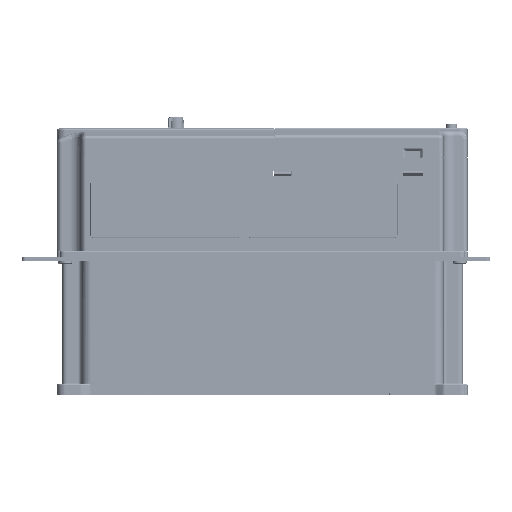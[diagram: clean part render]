
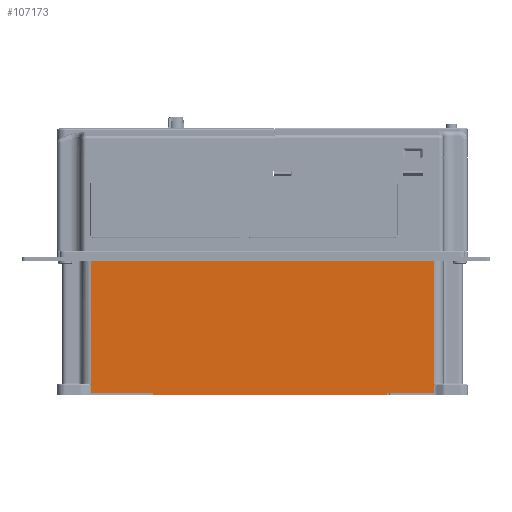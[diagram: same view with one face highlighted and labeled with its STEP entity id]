
A CAD part, left-side view. The second image highlights one B-rep face of the part: STEP entity #107173.
In plain terms, the highlighted planar face has unit normal (-1, 0, 0) as drawn and (1, 0, 0) by its records, which use the part's own axes.
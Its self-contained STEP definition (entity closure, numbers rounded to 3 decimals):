
#77103=DIRECTION('',(0.,0.,-1.));
#77104=VECTOR('',#77103,146.);
#77105=CARTESIAN_POINT('',(70.,-80.,68.));
#77106=LINE('',#77105,#77104);
#78350=CARTESIAN_POINT('',(70.,-73.,108.657));
#78352=DIRECTION('',(-0.001,0.,-1.));
#78353=VECTOR('',#78352,1.493);
#78354=CARTESIAN_POINT('',(70.,-73.,108.657));
#78355=LINE('',#78354,#78353);
#78363=DIRECTION('',(-0.001,0.,1.));
#78364=VECTOR('',#78363,1.493);
#78365=CARTESIAN_POINT('',(70.,-73.,-108.657));
#78366=LINE('',#78365,#78364);
#83448=DIRECTION('',(0.,0.,-1.));
#83449=VECTOR('',#83448,39.169);
#83450=CARTESIAN_POINT('',(70.,-78.5,107.169));
#83451=LINE('',#83450,#83449);
#83452=DIRECTION('',(0.,1.,0.));
#83453=VECTOR('',#83452,5.);
#83454=CARTESIAN_POINT('',(70.,-78.5,107.169));
#83455=LINE('',#83454,#83453);
#83456=CARTESIAN_POINT('',(70.,-73.405,
107.403));
#83457=CARTESIAN_POINT('',(70.,-73.373,
107.481));
#83458=CARTESIAN_POINT('',(70.,-73.298,
107.663));
#83459=CARTESIAN_POINT('',(70.,-73.201,
107.913));
#83460=CARTESIAN_POINT('',(70.,-73.116,
108.162));
#83461=CARTESIAN_POINT('',(70.,-73.046,
108.408));
#83462=CARTESIAN_POINT('',(70.,-73.013,108.574));
#83463=CARTESIAN_POINT('',(70.,-73.,108.657));
#83465=DIRECTION('',(0.,-1.,0.));
#83466=VECTOR('',#83465,79.);
#83467=CARTESIAN_POINT('',(70.,6.,107.));
#83468=LINE('',#83467,#83466);
#83469=DIRECTION('',(0.,0.,-1.));
#83470=VECTOR('',#83469,214.);
#83471=CARTESIAN_POINT('',(70.,6.,107.));
#83472=LINE('',#83471,#83470);
#83473=DIRECTION('',(0.,1.,0.));
#83474=VECTOR('',#83473,79.);
#83475=CARTESIAN_POINT('',(70.,-73.,-107.));
#83476=LINE('',#83475,#83474);
#83477=CARTESIAN_POINT('',(70.,-73.408,
-107.395));
#83478=CARTESIAN_POINT('',(70.,-73.366,
-107.478));
#83479=CARTESIAN_POINT('',(70.,-73.303,
-107.663));
#83480=CARTESIAN_POINT('',(70.,-73.183,
-107.953));
#83481=CARTESIAN_POINT('',(70.,-73.078,
-108.281));
#83482=CARTESIAN_POINT('',(70.,-73.02,-108.527));
#83483=CARTESIAN_POINT('',(70.,-73.,-108.657));
#83485=DIRECTION('',(0.,-1.,0.));
#83486=VECTOR('',#83485,5.);
#83487=CARTESIAN_POINT('',(70.,-73.5,-107.169));
#83488=LINE('',#83487,#83486);
#83489=DIRECTION('',(0.,0.,-1.));
#83490=VECTOR('',#83489,29.169);
#83491=CARTESIAN_POINT('',(70.,-78.5,-78.));
#83492=LINE('',#83491,#83490);
#83493=DIRECTION('',(0.,1.,0.));
#83494=VECTOR('',#83493,1.5);
#83495=CARTESIAN_POINT('',(70.,-80.,-78.));
#83496=LINE('',#83495,#83494);
#83497=DIRECTION('',(0.,1.,0.));
#83498=VECTOR('',#83497,1.5);
#83499=CARTESIAN_POINT('',(70.,-80.,68.));
#83500=LINE('',#83499,#83498);
#92670=CARTESIAN_POINT('',(70.,-73.,107.));
#92671=CARTESIAN_POINT('',(70.,-73.,107.028));
#92672=CARTESIAN_POINT('',(70.001,-73.,107.087));
#92673=CARTESIAN_POINT('',(69.999,-73.,107.136));
#92674=CARTESIAN_POINT('',(69.999,-73.,107.164));
#92707=CARTESIAN_POINT('',(70.,-73.405,
107.403));
#92719=CARTESIAN_POINT('',(70.,-73.405,
107.403));
#92720=CARTESIAN_POINT('',(70.,-73.422,
107.36));
#92721=CARTESIAN_POINT('',(70.,-73.447,
107.298));
#92722=CARTESIAN_POINT('',(70.,-73.484,107.209));
#92723=CARTESIAN_POINT('',(70.,-73.5,107.169));
#92819=CARTESIAN_POINT('',(69.999,-73.,-107.164));
#92820=CARTESIAN_POINT('',(69.999,-73.,-107.136));
#92821=CARTESIAN_POINT('',(70.001,-73.,-107.087));
#92822=CARTESIAN_POINT('',(70.,-73.,-107.028));
#92823=CARTESIAN_POINT('',(70.,-73.,-107.));
#93031=CARTESIAN_POINT('',(70.,-73.408,
-107.395));
#93038=CARTESIAN_POINT('',(70.,-73.5,-107.169));
#93039=CARTESIAN_POINT('',(70.,-73.484,-107.207));
#93040=CARTESIAN_POINT('',(70.,-73.453,
-107.283));
#93041=CARTESIAN_POINT('',(70.,-73.423,
-107.358));
#93042=CARTESIAN_POINT('',(70.,-73.408,
-107.395));
#95496=CARTESIAN_POINT('',(70.,-80.,68.));
#95498=VERTEX_POINT('',#95496);
#95512=CARTESIAN_POINT('',(70.,-80.,-78.));
#95514=VERTEX_POINT('',#95512);
#95523=CARTESIAN_POINT('',(70.,-78.5,107.169));
#95524=CARTESIAN_POINT('',(70.,-78.5,68.));
#95525=VERTEX_POINT('',#95523);
#95526=VERTEX_POINT('',#95524);
#95527=CARTESIAN_POINT('',(70.,-78.5,-78.));
#95528=CARTESIAN_POINT('',(70.,-78.5,-107.169));
#95529=VERTEX_POINT('',#95527);
#95530=VERTEX_POINT('',#95528);
#95935=CARTESIAN_POINT('',(70.,6.,107.));
#95936=CARTESIAN_POINT('',(70.,-73.,107.));
#95937=VERTEX_POINT('',#95935);
#95938=VERTEX_POINT('',#95936);
#95939=CARTESIAN_POINT('',(70.,-73.,-107.));
#95940=CARTESIAN_POINT('',(70.,6.,-107.));
#95941=VERTEX_POINT('',#95939);
#95942=VERTEX_POINT('',#95940);
#96020=CARTESIAN_POINT('',(70.,-73.5,-107.169));
#96022=VERTEX_POINT('',#96020);
#96145=CARTESIAN_POINT('',(70.,-73.5,107.169));
#96146=VERTEX_POINT('',#96145);
#96149=VERTEX_POINT('',#92674);
#96150=VERTEX_POINT('',#92819);
#96217=VERTEX_POINT('',#78350);
#96218=VERTEX_POINT('',#92707);
#96220=VERTEX_POINT('',#93031);
#96221=VERTEX_POINT('',#83483);
#107138=CARTESIAN_POINT('',(70.,-80.,125.));
#107139=DIRECTION('',(1.,0.,0.));
#107140=DIRECTION('',(0.,0.,-1.));
#107141=AXIS2_PLACEMENT_3D('',#107138,#107139,#107140);
#107142=PLANE('',#107141);
#107143=ORIENTED_EDGE('',*,*,#99883,.F.);
#107145=ORIENTED_EDGE('',*,*,#107144,.T.);
#107147=ORIENTED_EDGE('',*,*,#107146,.F.);
#107149=ORIENTED_EDGE('',*,*,#107148,.T.);
#107150=ORIENTED_EDGE('',*,*,#101305,.T.);
#107152=ORIENTED_EDGE('',*,*,#107151,.F.);
#107154=ORIENTED_EDGE('',*,*,#107153,.F.);
#107155=ORIENTED_EDGE('',*,*,#101616,.T.);
#107157=ORIENTED_EDGE('',*,*,#107156,.F.);
#107159=ORIENTED_EDGE('',*,*,#107158,.F.);
#107160=ORIENTED_EDGE('',*,*,#101317,.F.);
#107162=ORIENTED_EDGE('',*,*,#107161,.F.);
#107164=ORIENTED_EDGE('',*,*,#107163,.F.);
#107165=ORIENTED_EDGE('',*,*,#107130,.T.);
#107166=ORIENTED_EDGE('',*,*,#99662,.F.);
#107168=ORIENTED_EDGE('',*,*,#107167,.F.);
#107169=ORIENTED_EDGE('',*,*,#99432,.F.);
#107170=ORIENTED_EDGE('',*,*,#99584,.T.);
#107171=EDGE_LOOP('',(#107143,#107145,#107147,#107149,#107150,#107152,#107154,
#107155,#107157,#107159,#107160,#107162,#107164,#107165,#107166,#107168,#107169,
#107170));
#107172=FACE_OUTER_BOUND('',#107171,.F.);
#83464=B_SPLINE_CURVE_WITH_KNOTS('',3,(#83456,#83457,#83458,#83459,#83460,
#83461,#83462,#83463),.UNSPECIFIED.,.F.,.F.,(4,1,1,1,1,4),(0.,0.2,0.4,
0.6,0.8,1.),.UNSPECIFIED.);
#83484=B_SPLINE_CURVE_WITH_KNOTS('',3,(#83477,#83478,#83479,#83480,#83481,
#83482,#83483),.UNSPECIFIED.,.F.,.F.,(4,1,1,1,4),(0.,0.25,0.5,0.75,
1.),.UNSPECIFIED.);
#92675=B_SPLINE_CURVE_WITH_KNOTS('',3,(#92670,#92671,#92672,#92673,#92674),
.UNSPECIFIED.,.F.,.F.,(4,1,4),(0.,0.5,1.),.UNSPECIFIED.);
#92724=B_SPLINE_CURVE_WITH_KNOTS('',3,(#92719,#92720,#92721,#92722,#92723),
.UNSPECIFIED.,.F.,.F.,(4,1,4),(0.,0.5,1.),.UNSPECIFIED.);
#92824=B_SPLINE_CURVE_WITH_KNOTS('',3,(#92819,#92820,#92821,#92822,#92823),
.UNSPECIFIED.,.F.,.F.,(4,1,4),(0.,0.5,1.),.UNSPECIFIED.);
#93043=B_SPLINE_CURVE_WITH_KNOTS('',3,(#93038,#93039,#93040,#93041,#93042),
.UNSPECIFIED.,.F.,.F.,(4,1,4),(0.,0.5,1.),.UNSPECIFIED.);
#99432=EDGE_CURVE('',#95498,#95514,#77106,.T.);
#99584=EDGE_CURVE('',#95498,#95526,#83500,.T.);
#99662=EDGE_CURVE('',#95529,#95530,#83492,.T.);
#99883=EDGE_CURVE('',#95525,#95526,#83451,.T.);
#101305=EDGE_CURVE('',#96217,#96149,#78355,.T.);
#101317=EDGE_CURVE('',#96221,#96150,#78366,.T.);
#101616=EDGE_CURVE('',#95937,#95942,#83472,.T.);
#107130=EDGE_CURVE('',#96022,#95530,#83488,.T.);
#107144=EDGE_CURVE('',#95525,#96146,#83455,.T.);
#107146=EDGE_CURVE('',#96218,#96146,#92724,.T.);
#107148=EDGE_CURVE('',#96218,#96217,#83464,.T.);
#107151=EDGE_CURVE('',#95938,#96149,#92675,.T.);
#107153=EDGE_CURVE('',#95937,#95938,#83468,.T.);
#107156=EDGE_CURVE('',#95941,#95942,#83476,.T.);
#107158=EDGE_CURVE('',#96150,#95941,#92824,.T.);
#107161=EDGE_CURVE('',#96220,#96221,#83484,.T.);
#107163=EDGE_CURVE('',#96022,#96220,#93043,.T.);
#107167=EDGE_CURVE('',#95514,#95529,#83496,.T.);
#107173=ADVANCED_FACE('',(#107172),#107142,.T.);
